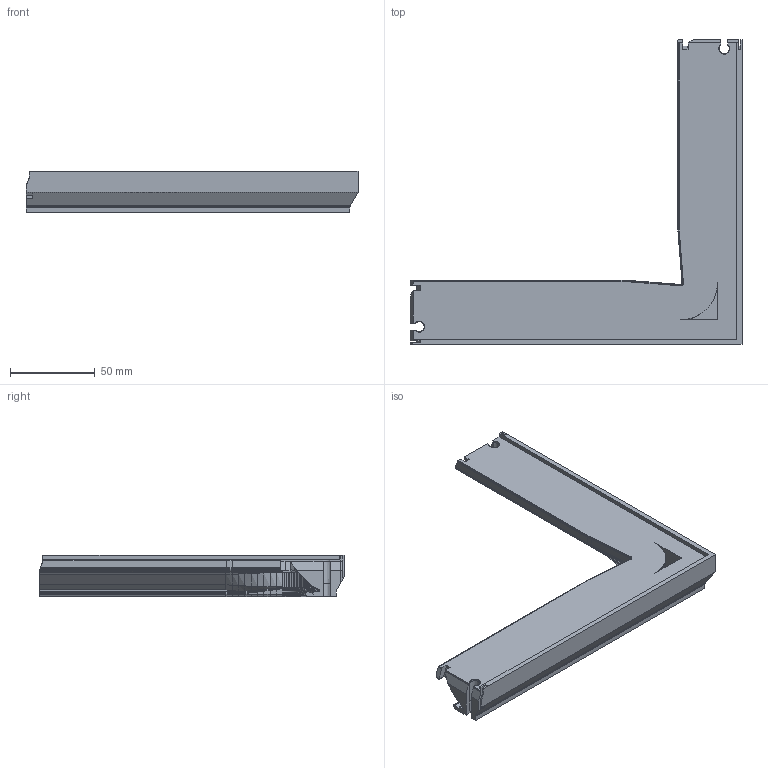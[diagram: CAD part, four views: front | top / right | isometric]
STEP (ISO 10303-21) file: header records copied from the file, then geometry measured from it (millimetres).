
FILE_DESCRIPTION(('Open CASCADE Model'),'2;1');
FILE_NAME('Open CASCADE Shape Model','2026-10-23T12:29:47',('Author'),( 'Open CASCADE'),'Open CASCADE STEP processor 8.0','build123d', 'Unknown');
FILE_SCHEMA(('AUTOMOTIVE_DESIGN { 1 0 10303 214 1 1 1 1 }'));
Products named in the file (1): SOLID
Bounding box: 196.4 x 180.4 x 24.5 mm (x, y, z)
Volume: 186509.2 mm3; surface area: 50735.3 mm2
Topology: 1 solids, 1 shells, 2410 faces, 5208 edges, 2801 vertices
Faces by surface type: bspline 1918, plane 486, cone 6
Entity records: 125475 total; most frequent: CARTESIAN_POINT 32807, DIRECTION 11712, LINE 10706, VECTOR 10706, ORIENTED_EDGE 10416, PCURVE 10416, DEFINITIONAL_REPRESENTATION 10416, EDGE_CURVE 5208
